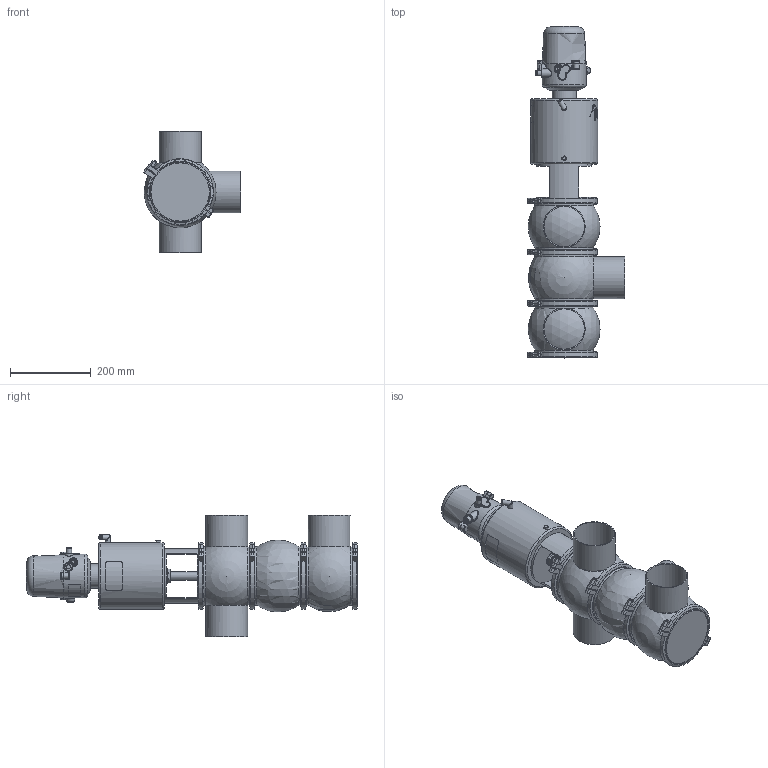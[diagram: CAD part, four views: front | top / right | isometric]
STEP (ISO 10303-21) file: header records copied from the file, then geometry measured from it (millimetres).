
FILE_DESCRIPTION (( 'STEP AP214' ), '1' );
FILE_NAME ('INNOVA L P W DIN 100 T4 AS NC & C-TOP S_10.241.16.0052.STEP', '2024-08-06T13:00:40', ( '' ), ( '' ), 'SwSTEP 2.0', 'SolidWorks 2023', '' );
FILE_SCHEMA (( 'AUTOMOTIVE_DESIGN' ));
Length unit declared in the file: millimetre
Products named in the file (9): 10.426.15.0001_C-TOP S - 1 EV; 10.240.15.0006_DIN 100; 10.240.15.0007_DIN 100; 10.240.15.0001_DN 100; INNOVA L P W DIN 100 T4 AS NC & C-TOP S_10.241.16.0052; 10.241.15.0001_DIN 100; 10.240.15.0010_DN 100; 10.240.15.0017_Estàndard; 10.240.15.0014_T4 AS P180
Assembly tree (12 placements, depth 2):
  INNOVA L P W DIN 100 T4 AS NC & C-TOP S_10.241.16.0052
    10.240.15.0007_DIN 100
    10.240.15.0006_DIN 100  x2
    10.240.15.0010_DN 100
    10.240.15.0014_T4 AS P180
    10.240.15.0017_Estàndard
    10.426.15.0001_C-TOP S - 1 EV
    10.240.15.0001_DN 100  x4
    10.241.15.0001_DIN 100
Bounding box: 241.26 x 822.5 x 300 mm (x, y, z)
Volume: 13841035.3 mm3; surface area: 1001157.5 mm2
Topology: 13 solids, 13 shells, 1312 faces, 3218 edges, 2134 vertices
Faces by surface type: plane 478, cylinder 405, cone 221, bspline 160, torus 36, sphere 12
Full cylindrical faces by diameter (mm): 0.371 x17, 0.512 x16, 0.658 x16, 0.795 x16, 0.94 x15, 1.098 x15, 1.241 x13, 1.382 x13, 1.523 x11, 1.669 x10, 2.201 x1, 4 x2, 5.5 x2, 6 x2, 6.15 x1, 8 x10, 8.5 x1, 10 x1, 10.5 x1, 11 x2, 12.5 x3, 13 x2, 13.5 x2, 16 x1, 17 x3, 20 x3, 20.5 x1, 22 x2, 31 x1, 34.5 x3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
Entity records: 58220 total; most frequent: CARTESIAN_POINT 27813, ORIENTED_EDGE 4538, DIRECTION 3689, EDGE_CURVE 2269, VERTEX_POINT 1614, EDGE_LOOP 1575, AXIS2_PLACEMENT_3D 1516, FACE_OUTER_BOUND 1338
